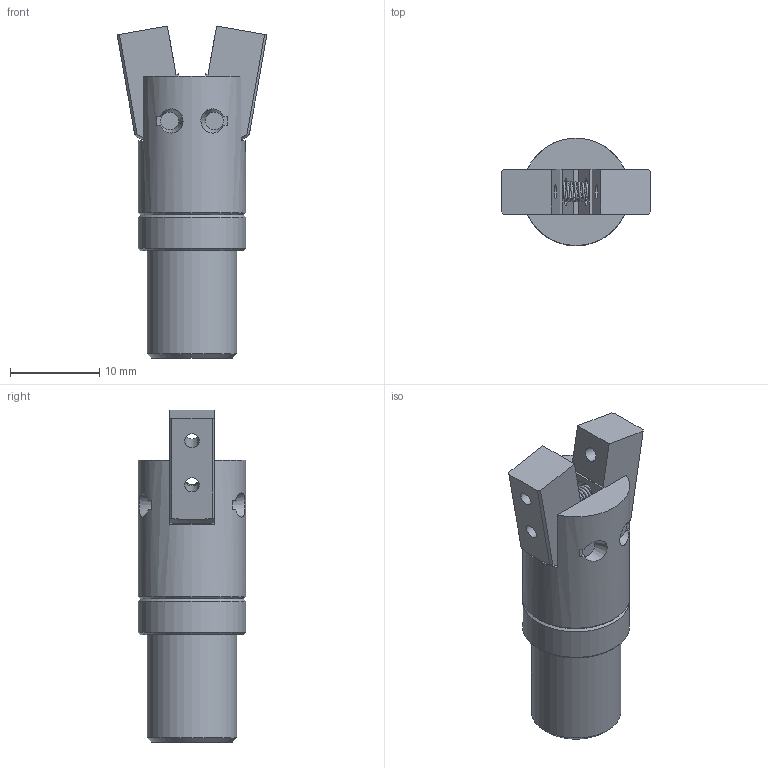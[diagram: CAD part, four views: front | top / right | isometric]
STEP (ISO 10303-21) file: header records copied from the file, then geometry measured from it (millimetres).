
FILE_DESCRIPTION (( 'STEP AP214' ), '1' );
FILE_NAME ('1224.STEP', '2024-06-20T12:52:33', ( '' ), ( '' ), 'SwSTEP 2.0', 'SolidWorks 2022', '' );
FILE_SCHEMA (( 'AUTOMOTIVE_DESIGN' ));
Length unit declared in the file: millimetre
Products named in the file (1): 1224
Bounding box: 16.72 x 12 x 37.12 mm (x, y, z)
Volume: 3283.4 mm3; surface area: 2524.1 mm2
Topology: 6 solids, 6 shells, 81 faces, 187 edges, 122 vertices
Faces by surface type: plane 52, cylinder 18, cone 10, bspline 1
Full cylindrical faces by diameter (mm): 1.6 x4, 2 x8, 3 x2, 4.2 x1, 10 x1, 12 x2
Entity records: 3625 total; most frequent: CARTESIAN_POINT 1581, DIRECTION 352, ORIENTED_EDGE 308, EDGE_CURVE 154, AXIS2_PLACEMENT_3D 139, EDGE_LOOP 128, VERTEX_POINT 112, FACE_OUTER_BOUND 100
